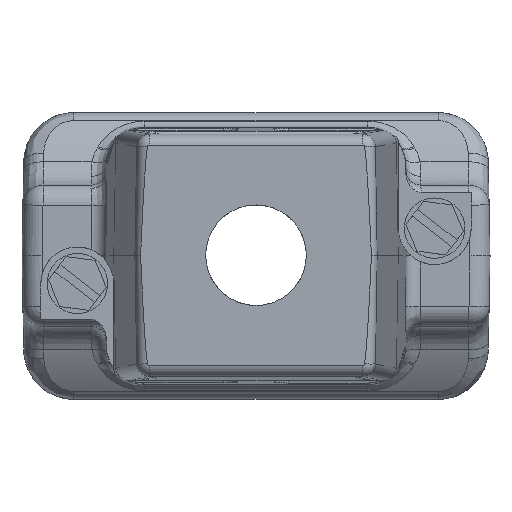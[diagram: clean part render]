
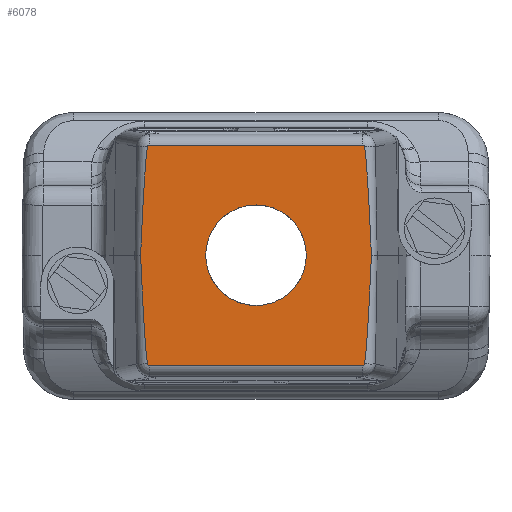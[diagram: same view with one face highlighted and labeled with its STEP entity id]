
A CAD part, top view. The second image highlights one B-rep face of the part: STEP entity #6078.
In plain terms, the highlighted planar face has unit normal (0, 0, 1).
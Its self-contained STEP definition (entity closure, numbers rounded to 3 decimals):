
#2463=LINE('',#20809,#3697);
#2469=LINE('',#20848,#3703);
#3697=VECTOR('',#17473,1.);
#3703=VECTOR('',#17521,1.);
#4934=ELLIPSE('',#16259,143.264,2.5);
#4936=ELLIPSE('',#16266,143.264,2.5);
#4938=ELLIPSE('',#16270,143.264,2.5);
#4939=ELLIPSE('',#16277,143.264,2.5);
#5343=FACE_BOUND('',#8123,.T.);
#5344=FACE_BOUND('',#8124,.T.);
#6078=ADVANCED_FACE('',(#5343,#5344),#6591,.T.);
#6591=PLANE('',#17037);
#8123=EDGE_LOOP('',(#11893));
#8124=EDGE_LOOP('',(#11894,#11895,#11896,#11897,#11898,#11899,#11900,#11901,
#11902,#11903));
#11893=ORIENTED_EDGE('',*,*,#15473,.F.);
#11894=ORIENTED_EDGE('',*,*,#13776,.T.);
#11895=ORIENTED_EDGE('',*,*,#13782,.F.);
#11896=ORIENTED_EDGE('',*,*,#13788,.F.);
#11897=ORIENTED_EDGE('',*,*,#13794,.F.);
#11898=ORIENTED_EDGE('',*,*,#13799,.T.);
#11899=ORIENTED_EDGE('',*,*,#13796,.T.);
#11900=ORIENTED_EDGE('',*,*,#13790,.F.);
#11901=ORIENTED_EDGE('',*,*,#13784,.F.);
#11902=ORIENTED_EDGE('',*,*,#13778,.F.);
#11903=ORIENTED_EDGE('',*,*,#13772,.T.);
#12435=VERTEX_POINT('',#20799);
#12436=VERTEX_POINT('',#20801);
#12439=VERTEX_POINT('',#20808);
#12440=VERTEX_POINT('',#20813);
#12443=VERTEX_POINT('',#20820);
#12444=VERTEX_POINT('',#20825);
#12446=VERTEX_POINT('',#20831);
#12448=VERTEX_POINT('',#20837);
#12450=VERTEX_POINT('',#20843);
#12452=VERTEX_POINT('',#20849);
#13513=VERTEX_POINT('',#28279);
#13772=EDGE_CURVE('',#12436,#12435,#15674,.T.);
#13776=EDGE_CURVE('',#12435,#12439,#2463,.T.);
#13778=EDGE_CURVE('',#12436,#12440,#4934,.T.);
#13782=EDGE_CURVE('',#12443,#12439,#15679,.T.);
#13784=EDGE_CURVE('',#12440,#12444,#4936,.T.);
#13788=EDGE_CURVE('',#12446,#12443,#4938,.T.);
#13790=EDGE_CURVE('',#12444,#12448,#15682,.T.);
#13794=EDGE_CURVE('',#12450,#12446,#4939,.T.);
#13796=EDGE_CURVE('',#12452,#12448,#2469,.T.);
#13799=EDGE_CURVE('',#12450,#12452,#15687,.T.);
#15473=EDGE_CURVE('',#13513,#13513,#15807,.T.);
#15674=CIRCLE('',#16253,0.357);
#15679=CIRCLE('',#16263,0.357);
#15682=CIRCLE('',#16272,0.357);
#15687=CIRCLE('',#16281,0.357);
#15807=CIRCLE('',#17036,10.);
#16253=AXIS2_PLACEMENT_3D('',#20800,#17463,#17464);
#16259=AXIS2_PLACEMENT_3D('',#20812,#17477,#17478);
#16263=AXIS2_PLACEMENT_3D('',#20821,#17486,#17487);
#16266=AXIS2_PLACEMENT_3D('',#20824,#17492,#17493);
#16270=AXIS2_PLACEMENT_3D('',#20833,#17501,#17502);
#16272=AXIS2_PLACEMENT_3D('',#20836,#17506,#17507);
#16277=AXIS2_PLACEMENT_3D('',#20845,#17516,#17517);
#16281=AXIS2_PLACEMENT_3D('',#20854,#17527,#17528);
#17036=AXIS2_PLACEMENT_3D('',#28278,#20108,#20109);
#17037=AXIS2_PLACEMENT_3D('',#28280,#20110,#20111);
#17463=DIRECTION('',(0.,0.,1.));
#17464=DIRECTION('',(1.,0.,0.));
#17473=DIRECTION('',(1.,0.,0.));
#17477=DIRECTION('',(0.,0.,-1.));
#17478=DIRECTION('',(0.016,-1.,0.));
#17486=DIRECTION('',(0.,0.,-1.));
#17487=DIRECTION('',(1.,0.,0.));
#17492=DIRECTION('',(0.,0.,-1.));
#17493=DIRECTION('',(-0.016,-1.,0.));
#17501=DIRECTION('',(0.,0.,-1.));
#17502=DIRECTION('',(-0.016,-1.,0.));
#17506=DIRECTION('',(0.,0.,-1.));
#17507=DIRECTION('',(1.,0.,0.));
#17516=DIRECTION('',(0.,0.,-1.));
#17517=DIRECTION('',(0.016,-1.,0.));
#17521=DIRECTION('',(-1.,0.,0.));
#17527=DIRECTION('',(0.,0.,1.));
#17528=DIRECTION('',(1.,0.,0.));
#20108=DIRECTION('',(0.,0.,1.));
#20109=DIRECTION('',(1.,0.,0.));
#20110=DIRECTION('',(0.,0.,1.));
#20111=DIRECTION('',(1.,0.,0.));
#20799=CARTESIAN_POINT('',(-21.234,-21.908,62.518));
#20800=CARTESIAN_POINT('',(-21.234,-21.55,62.518));
#20801=CARTESIAN_POINT('',(-21.588,-21.599,62.518));
#20808=CARTESIAN_POINT('',(21.234,-21.908,62.518));
#20809=CARTESIAN_POINT('',(0.,-21.908,62.518));
#20812=CARTESIAN_POINT('',(-23.462,120.203,62.518));
#20813=CARTESIAN_POINT('',(-22.934,0.,62.518));
#20820=CARTESIAN_POINT('',(21.588,-21.599,62.518));
#20821=CARTESIAN_POINT('',(21.234,-21.55,62.518));
#20824=CARTESIAN_POINT('',(-23.462,-120.203,62.518));
#20825=CARTESIAN_POINT('',(-21.588,21.599,62.518));
#20831=CARTESIAN_POINT('',(22.934,0.,62.518));
#20833=CARTESIAN_POINT('',(23.462,120.203,62.518));
#20836=CARTESIAN_POINT('',(-21.234,21.55,62.518));
#20837=CARTESIAN_POINT('',(-21.234,21.908,62.518));
#20843=CARTESIAN_POINT('',(21.588,21.599,62.518));
#20845=CARTESIAN_POINT('',(23.462,-120.203,62.518));
#20848=CARTESIAN_POINT('',(0.,21.908,62.518));
#20849=CARTESIAN_POINT('',(21.234,21.908,62.518));
#20854=CARTESIAN_POINT('',(21.234,21.55,62.518));
#28278=CARTESIAN_POINT('',(0.,0.,62.518));
#28279=CARTESIAN_POINT('',(10.,0.,62.518));
#28280=CARTESIAN_POINT('',(-25.,-30.,62.518));
